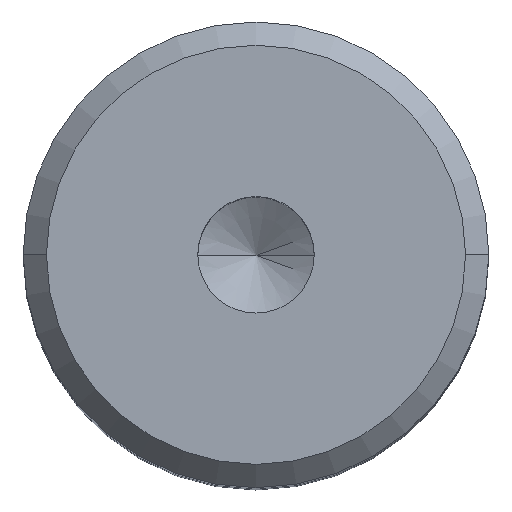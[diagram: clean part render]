
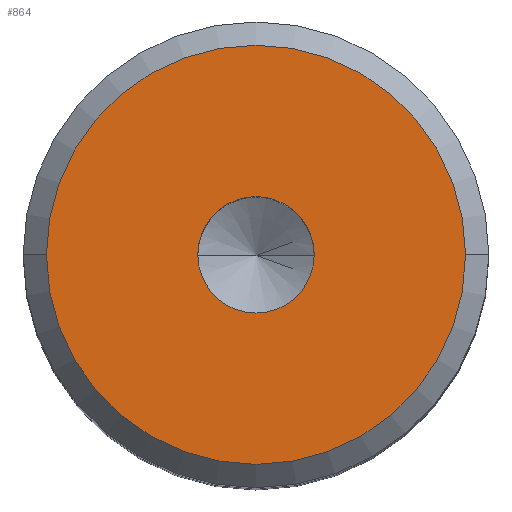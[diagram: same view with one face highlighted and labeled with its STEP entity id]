
A CAD part, top view. The second image highlights one B-rep face of the part: STEP entity #864.
In plain terms, the highlighted planar face has unit normal (0, 0, 1).
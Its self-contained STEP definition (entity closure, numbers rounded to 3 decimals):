
#42 = CARTESIAN_POINT ( 'NONE',  ( 0., 0., 29.5 ) ) ;
#49 = EDGE_CURVE ( 'NONE', #945, #714, #215, .T. ) ;
#59 = VERTEX_POINT ( 'NONE', #223 ) ;
#65 = DIRECTION ( 'NONE',  ( 0., 0., 1. ) ) ;
#136 = VERTEX_POINT ( 'NONE', #856 ) ;
#149 = CIRCLE ( 'NONE', #942, 2.5 ) ;
#205 = CARTESIAN_POINT ( 'NONE',  ( 0., 0., 29.5 ) ) ;
#207 = AXIS2_PLACEMENT_3D ( 'NONE', #1063, #65, #724 ) ;
#208 = DIRECTION ( 'NONE',  ( 0., 0., 1. ) ) ;
#215 = CIRCLE ( 'NONE', #394, 9. ) ;
#223 = CARTESIAN_POINT ( 'NONE',  ( 2.5, 0., 29.5 ) ) ;
#262 = ORIENTED_EDGE ( 'NONE', *, *, #809, .T. ) ;
#277 = ORIENTED_EDGE ( 'NONE', *, *, #934, .F. ) ;
#289 = PLANE ( 'NONE',  #584 ) ;
#394 = AXIS2_PLACEMENT_3D ( 'NONE', #1040, #549, #1032 ) ;
#462 = CIRCLE ( 'NONE', #1065, 9. ) ;
#474 = ORIENTED_EDGE ( 'NONE', *, *, #743, .F. ) ;
#521 = ORIENTED_EDGE ( 'NONE', *, *, #49, .T. ) ;
#536 = CARTESIAN_POINT ( 'NONE',  ( 0., 0., 29.5 ) ) ;
#549 = DIRECTION ( 'NONE',  ( 0., 0., 1. ) ) ;
#584 = AXIS2_PLACEMENT_3D ( 'NONE', #205, #804, #799 ) ;
#618 = EDGE_LOOP ( 'NONE', ( #262, #521 ) ) ;
#630 = DIRECTION ( 'NONE',  ( 0., 0., 1. ) ) ;
#673 = CIRCLE ( 'NONE', #207, 2.5 ) ;
#710 = DIRECTION ( 'NONE',  ( 1., 0., 0. ) ) ;
#714 = VERTEX_POINT ( 'NONE', #773 ) ;
#724 = DIRECTION ( 'NONE',  ( 1., 0., 0. ) ) ;
#743 = EDGE_CURVE ( 'NONE', #136, #59, #149, .T. ) ;
#760 = FACE_BOUND ( 'NONE', #870, .T. ) ;
#773 = CARTESIAN_POINT ( 'NONE',  ( -9., 0., 29.5 ) ) ;
#798 = DIRECTION ( 'NONE',  ( 1., 0., 0. ) ) ;
#799 = DIRECTION ( 'NONE',  ( 1., 0., 0. ) ) ;
#804 = DIRECTION ( 'NONE',  ( 0., 0., 1. ) ) ;
#809 = EDGE_CURVE ( 'NONE', #714, #945, #462, .T. ) ;
#856 = CARTESIAN_POINT ( 'NONE',  ( -2.5, 0., 29.5 ) ) ;
#864 = ADVANCED_FACE ( 'NONE', ( #1006, #760 ), #289, .T. ) ;
#870 = EDGE_LOOP ( 'NONE', ( #277, #474 ) ) ;
#934 = EDGE_CURVE ( 'NONE', #59, #136, #673, .T. ) ;
#942 = AXIS2_PLACEMENT_3D ( 'NONE', #536, #208, #798 ) ;
#945 = VERTEX_POINT ( 'NONE', #986 ) ;
#986 = CARTESIAN_POINT ( 'NONE',  ( 9., 0., 29.5 ) ) ;
#1006 = FACE_OUTER_BOUND ( 'NONE', #618, .T. ) ;
#1032 = DIRECTION ( 'NONE',  ( 1., 0., 0. ) ) ;
#1040 = CARTESIAN_POINT ( 'NONE',  ( 0., 0., 29.5 ) ) ;
#1063 = CARTESIAN_POINT ( 'NONE',  ( 0., 0., 29.5 ) ) ;
#1065 = AXIS2_PLACEMENT_3D ( 'NONE', #42, #630, #710 ) ;
